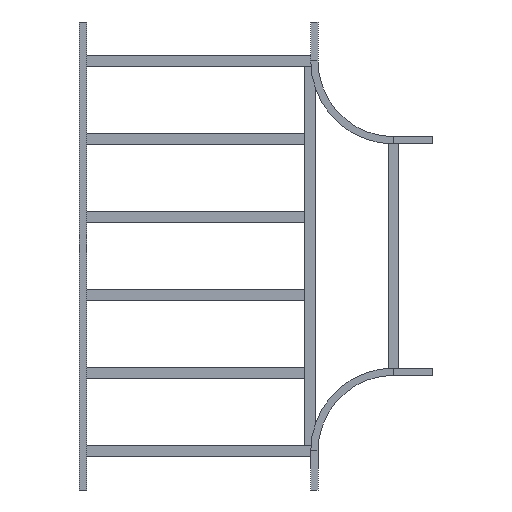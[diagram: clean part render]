
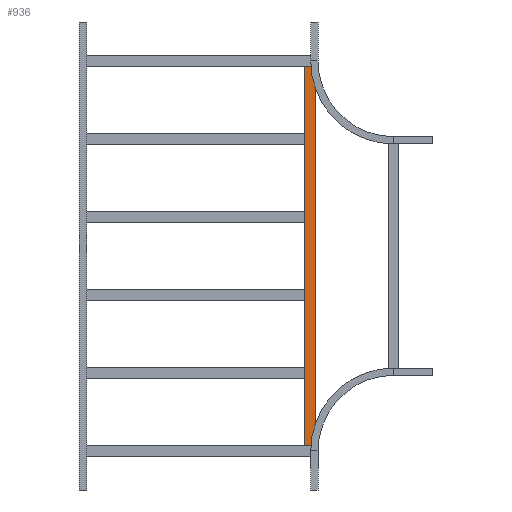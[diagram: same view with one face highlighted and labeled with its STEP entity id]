
A CAD part, front view. The second image highlights one B-rep face of the part: STEP entity #936.
In plain terms, the highlighted planar face has unit normal (0, -1, 0).
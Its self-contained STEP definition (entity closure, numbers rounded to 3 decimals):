
#50 = ORIENTED_EDGE ( 'NONE', *, *, #1337, .F. ) ;
#106 = DIRECTION ( 'NONE',  ( 0., 0., -1. ) ) ;
#289 = VERTEX_POINT ( 'NONE', #896 ) ;
#371 = LINE ( 'NONE', #1367, #1697 ) ;
#411 = VECTOR ( 'NONE', #2057, 1000. ) ;
#474 = EDGE_LOOP ( 'NONE', ( #2692, #3160, #50, #2263 ) ) ;
#564 = LINE ( 'NONE', #1569, #2249 ) ;
#771 = DIRECTION ( 'NONE',  ( 0., 0., 1. ) ) ;
#810 = PLANE ( 'NONE',  #1105 ) ;
#827 = CARTESIAN_POINT ( 'NONE',  ( 729.75, 0., 20.25 ) ) ;
#896 = CARTESIAN_POINT ( 'NONE',  ( 729.75, 0., -20.25 ) ) ;
#932 = EDGE_CURVE ( 'NONE', #289, #3184, #2771, .T. ) ;
#936 = ADVANCED_FACE ( 'NONE', ( #3062 ), #810, .F. ) ;
#1105 = AXIS2_PLACEMENT_3D ( 'NONE', #827, #1287, #771 ) ;
#1117 = VECTOR ( 'NONE', #1638, 1000. ) ;
#1287 = DIRECTION ( 'NONE',  ( 0., 1., 0. ) ) ;
#1337 = EDGE_CURVE ( 'NONE', #2140, #289, #564, .T. ) ;
#1367 = CARTESIAN_POINT ( 'NONE',  ( -729.75, 0., 20.25 ) ) ;
#1396 = CARTESIAN_POINT ( 'NONE',  ( 729.75, 0., 20.25 ) ) ;
#1569 = CARTESIAN_POINT ( 'NONE',  ( 729.75, 0., 20.25 ) ) ;
#1604 = EDGE_CURVE ( 'NONE', #2140, #3044, #2577, .T. ) ;
#1638 = DIRECTION ( 'NONE',  ( -1., 0., 0. ) ) ;
#1697 = VECTOR ( 'NONE', #106, 1000. ) ;
#2057 = DIRECTION ( 'NONE',  ( -1., 0., 0. ) ) ;
#2060 = CARTESIAN_POINT ( 'NONE',  ( -729.75, 0., -20.25 ) ) ;
#2126 = CARTESIAN_POINT ( 'NONE',  ( 729.75, 0., 20.25 ) ) ;
#2140 = VERTEX_POINT ( 'NONE', #1396 ) ;
#2249 = VECTOR ( 'NONE', #3127, 1000. ) ;
#2263 = ORIENTED_EDGE ( 'NONE', *, *, #1604, .T. ) ;
#2577 = LINE ( 'NONE', #2126, #1117 ) ;
#2692 = ORIENTED_EDGE ( 'NONE', *, *, #2894, .T. ) ;
#2743 = CARTESIAN_POINT ( 'NONE',  ( -729.75, 0., 20.25 ) ) ;
#2771 = LINE ( 'NONE', #3078, #411 ) ;
#2894 = EDGE_CURVE ( 'NONE', #3044, #3184, #371, .T. ) ;
#3044 = VERTEX_POINT ( 'NONE', #2743 ) ;
#3062 = FACE_OUTER_BOUND ( 'NONE', #474, .T. ) ;
#3078 = CARTESIAN_POINT ( 'NONE',  ( 729.75, 0., -20.25 ) ) ;
#3127 = DIRECTION ( 'NONE',  ( 0., 0., -1. ) ) ;
#3160 = ORIENTED_EDGE ( 'NONE', *, *, #932, .F. ) ;
#3184 = VERTEX_POINT ( 'NONE', #2060 ) ;
